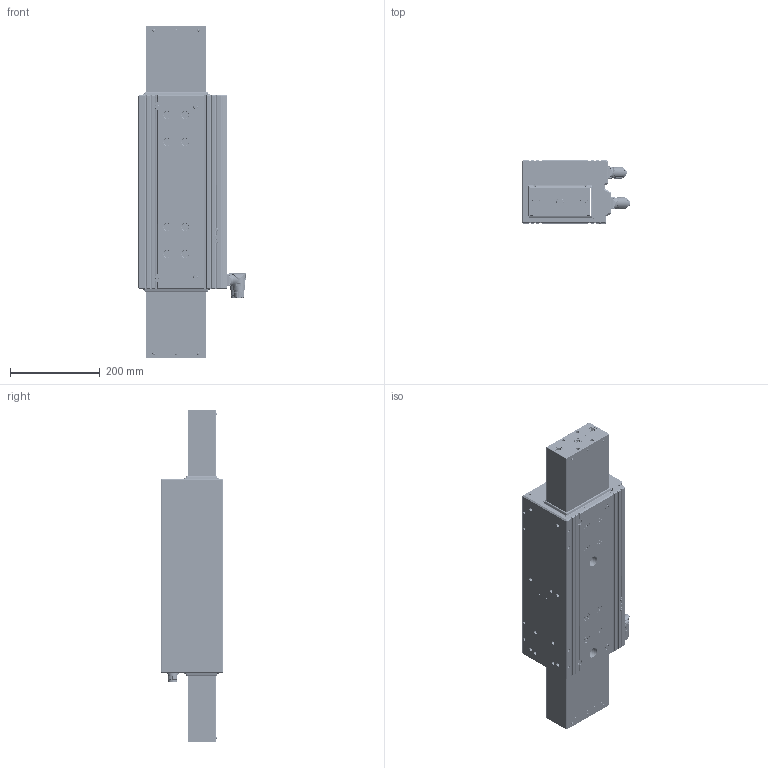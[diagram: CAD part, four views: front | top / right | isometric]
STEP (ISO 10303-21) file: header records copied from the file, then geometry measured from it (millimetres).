
FILE_DESCRIPTION((''),'2;1');
FILE_NAME('LDAT-100-DUMMY_ASM','2012-05-17T',('als'),('Rockwell Automation'),'PRO/ENGINEER BY PARAMETRIC TECHNOLOGY CORPORATION, 2007390','PRO/ENGINEER BY PARAMETRIC TECHNOLOGY CORPORATION, 2007390','');
FILE_SCHEMA(('CONFIG_CONTROL_DESIGN'));
Length unit declared in the file: millimetre
Products named in the file (32): B627631-100-A_AF2; D627756-100-300_ASM; D627768-100; D627769-100; B627834; D627739-100; LDAT-100-SLIDER-DUMMY-700; B627686-100; A805843-1; A805843-2; A805843-4; A805843-3_ASM; A805843-5; A805843-6; A805843_ASM; A805844-1; A805844-2; A805844-3; A805844_ASM; B805901-E1-NT_ASM; DIN7991-12_9-8X22-ZP; 627795; 627815; DIN912-3X8; DIN912-2_5X12; 627849; DIN7991-12_9-5X30-ZP; DIN912-12X50; DIN912-10X16; B627690-100; ISO7380-3X6; LDAT-100-DUMMY_ASM
Assembly tree (93 placements, depth 4):
  LDAT-100-DUMMY_ASM
    D627756-100-300_ASM
      B627631-100-A_AF2
    D627768-100
    D627769-100
    B627834
    D627739-100  x2
    LDAT-100-SLIDER-DUMMY-700
    B627686-100  x2
    A805843_ASM
      A805843-1
      A805843-2
      A805843-3_ASM
        A805843-4
      A805843-5  x4
      A805843-6  x2
    B805901-E1-NT_ASM
      A805844_ASM
        A805844-1
        A805844-2
        A805844-3
    DIN7991-12_9-8X22-ZP  x8
    627795  x4
    627815  x3
    DIN912-3X8  x14
    DIN912-2_5X12  x8
    627849  x6
    DIN7991-12_9-5X30-ZP  x10
    DIN912-12X50  x4
    DIN912-10X16  x2
    B627690-100  x2
    ISO7380-3X6  x6
Bounding box: 239.05 x 140 x 738.1 mm (x, y, z)
Volume: 10760601.4 mm3; surface area: 1244514.6 mm2
Topology: 88 solids, 103 shells, 6381 faces, 17549 edges, 11463 vertices
Faces by surface type: cylinder 2550, plane 1746, bspline 834, cone 587, torus 542, sphere 117, extrusion 3, revolution 2
Entity records: 237871 total; most frequent: CARTESIAN_POINT 119887, ORIENTED_EDGE 26826, DIRECTION 21967, EDGE_CURVE 13438, AXIS2_PLACEMENT_3D 8957, VERTEX_POINT 8931, EDGE_LOOP 5091, CIRCLE 4919
